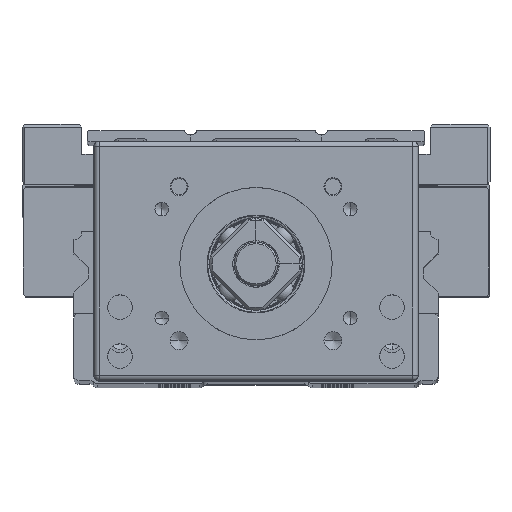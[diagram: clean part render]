
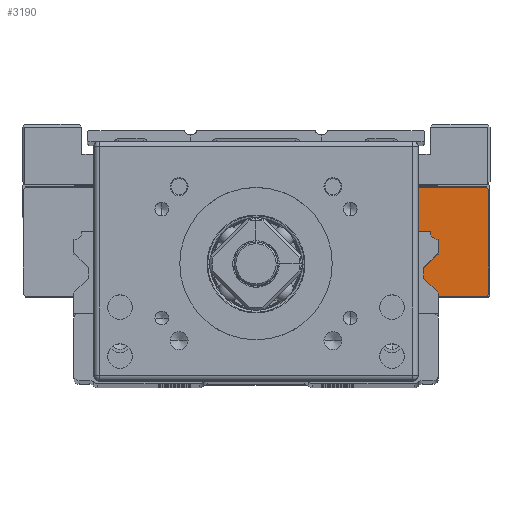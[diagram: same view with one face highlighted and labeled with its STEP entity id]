
A CAD part, top view. The second image highlights one B-rep face of the part: STEP entity #3190.
In plain terms, the highlighted planar face has unit normal (0, 0, 1).
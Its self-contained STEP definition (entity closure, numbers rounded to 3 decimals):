
#991 = DIRECTION ( 'NONE',  ( 0.707, -0.707, 0. ) ) ;
#1701 = CARTESIAN_POINT ( 'NONE',  ( 42.55, 36.25, -126.3 ) ) ;
#1715 = LINE ( 'NONE', #37153, #35181 ) ;
#2173 = CARTESIAN_POINT ( 'NONE',  ( 9.45, 36.25, -126.3 ) ) ;
#3190 = ADVANCED_FACE ( 'NONE', ( #58047 ), #59096, .T. ) ;
#3368 = CARTESIAN_POINT ( 'NONE',  ( 42.8, 28., -126.3 ) ) ;
#3524 = CARTESIAN_POINT ( 'NONE',  ( 26., 36.4, -126.3 ) ) ;
#4724 = VERTEX_POINT ( 'NONE', #18109 ) ;
#4984 = LINE ( 'NONE', #3524, #5804 ) ;
#5804 = VECTOR ( 'NONE', #48125, 1000. ) ;
#7314 = DIRECTION ( 'NONE',  ( 0., -1., 0. ) ) ;
#7728 = ORIENTED_EDGE ( 'NONE', *, *, #27670, .T. ) ;
#9079 = EDGE_CURVE ( 'NONE', #50236, #42932, #41254, .T. ) ;
#13148 = DIRECTION ( 'NONE',  ( 0., 1., 0. ) ) ;
#17550 = ORIENTED_EDGE ( 'NONE', *, *, #41648, .F. ) ;
#18024 = ORIENTED_EDGE ( 'NONE', *, *, #35987, .T. ) ;
#18109 = CARTESIAN_POINT ( 'NONE',  ( 9.2, 36., -126.3 ) ) ;
#18889 = CARTESIAN_POINT ( 'NONE',  ( 42.8, 16.8, -126.3 ) ) ;
#26278 = VERTEX_POINT ( 'NONE', #18889 ) ;
#27670 = EDGE_CURVE ( 'NONE', #4724, #53966, #28733, .T. ) ;
#27696 = CARTESIAN_POINT ( 'NONE',  ( 42.3, 16.3, -126.3 ) ) ;
#28733 = LINE ( 'NONE', #41816, #30302 ) ;
#30302 = VECTOR ( 'NONE', #7314, 1000. ) ;
#30961 = CARTESIAN_POINT ( 'NONE',  ( 9.6, 36.4, -126.3 ) ) ;
#31830 = DIRECTION ( 'NONE',  ( 0.707, 0.707, 0. ) ) ;
#32179 = ORIENTED_EDGE ( 'NONE', *, *, #61876, .T. ) ;
#32554 = EDGE_CURVE ( 'NONE', #4724, #39686, #59670, .T. ) ;
#33095 = ORIENTED_EDGE ( 'NONE', *, *, #56348, .F. ) ;
#33383 = CARTESIAN_POINT ( 'NONE',  ( 42.8, 36., -126.3 ) ) ;
#34528 = LINE ( 'NONE', #52930, #47786 ) ;
#35181 = VECTOR ( 'NONE', #62030, 1000. ) ;
#35987 = EDGE_CURVE ( 'NONE', #26278, #42932, #46453, .T. ) ;
#36038 = CARTESIAN_POINT ( 'NONE',  ( 42.4, 36.4, -126.3 ) ) ;
#37153 = CARTESIAN_POINT ( 'NONE',  ( 9.45, 16.55, -126.3 ) ) ;
#37924 = CARTESIAN_POINT ( 'NONE',  ( 9.7, 16.3, -126.3 ) ) ;
#38994 = VERTEX_POINT ( 'NONE', #56175 ) ;
#39686 = VERTEX_POINT ( 'NONE', #30961 ) ;
#41254 = LINE ( 'NONE', #1701, #60378 ) ;
#41648 = EDGE_CURVE ( 'NONE', #46759, #53966, #1715, .T. ) ;
#41816 = CARTESIAN_POINT ( 'NONE',  ( 9.2, 28., -126.3 ) ) ;
#42932 = VERTEX_POINT ( 'NONE', #33383 ) ;
#46076 = VECTOR ( 'NONE', #13148, 1000. ) ;
#46453 = LINE ( 'NONE', #3368, #46076 ) ;
#46759 = VERTEX_POINT ( 'NONE', #37924 ) ;
#47786 = VECTOR ( 'NONE', #57916, 1000. ) ;
#48125 = DIRECTION ( 'NONE',  ( -1., 0., 0. ) ) ;
#49781 = EDGE_CURVE ( 'NONE', #50236, #39686, #4984, .T. ) ;
#50236 = VERTEX_POINT ( 'NONE', #36038 ) ;
#52930 = CARTESIAN_POINT ( 'NONE',  ( 9., 16.3, -126.3 ) ) ;
#53272 = CARTESIAN_POINT ( 'NONE',  ( 9.2, 16.8, -126.3 ) ) ;
#53966 = VERTEX_POINT ( 'NONE', #53272 ) ;
#54388 = ORIENTED_EDGE ( 'NONE', *, *, #9079, .F. ) ;
#54715 = AXIS2_PLACEMENT_3D ( 'NONE', #58886, #58450, #58369 ) ;
#54967 = VECTOR ( 'NONE', #57478, 1000. ) ;
#55479 = LINE ( 'NONE', #27696, #54967 ) ;
#56175 = CARTESIAN_POINT ( 'NONE',  ( 42.3, 16.3, -126.3 ) ) ;
#56348 = EDGE_CURVE ( 'NONE', #38994, #46759, #34528, .T. ) ;
#57478 = DIRECTION ( 'NONE',  ( 0.707, 0.707, 0. ) ) ;
#57685 = ORIENTED_EDGE ( 'NONE', *, *, #49781, .T. ) ;
#57916 = DIRECTION ( 'NONE',  ( -1., 0., 0. ) ) ;
#58047 = FACE_OUTER_BOUND ( 'NONE', #61774, .T. ) ;
#58153 = ORIENTED_EDGE ( 'NONE', *, *, #32554, .F. ) ;
#58369 = DIRECTION ( 'NONE',  ( 1., 0., 0. ) ) ;
#58450 = DIRECTION ( 'NONE',  ( 0., 0., 1. ) ) ;
#58886 = CARTESIAN_POINT ( 'NONE',  ( 26., 28., -126.3 ) ) ;
#59096 = PLANE ( 'NONE',  #54715 ) ;
#59433 = VECTOR ( 'NONE', #31830, 1000. ) ;
#59670 = LINE ( 'NONE', #2173, #59433 ) ;
#60378 = VECTOR ( 'NONE', #991, 1000. ) ;
#61774 = EDGE_LOOP ( 'NONE', ( #58153, #7728, #17550, #33095, #32179, #18024, #54388, #57685 ) ) ;
#61876 = EDGE_CURVE ( 'NONE', #38994, #26278, #55479, .T. ) ;
#62030 = DIRECTION ( 'NONE',  ( -0.707, 0.707, 0. ) ) ;
